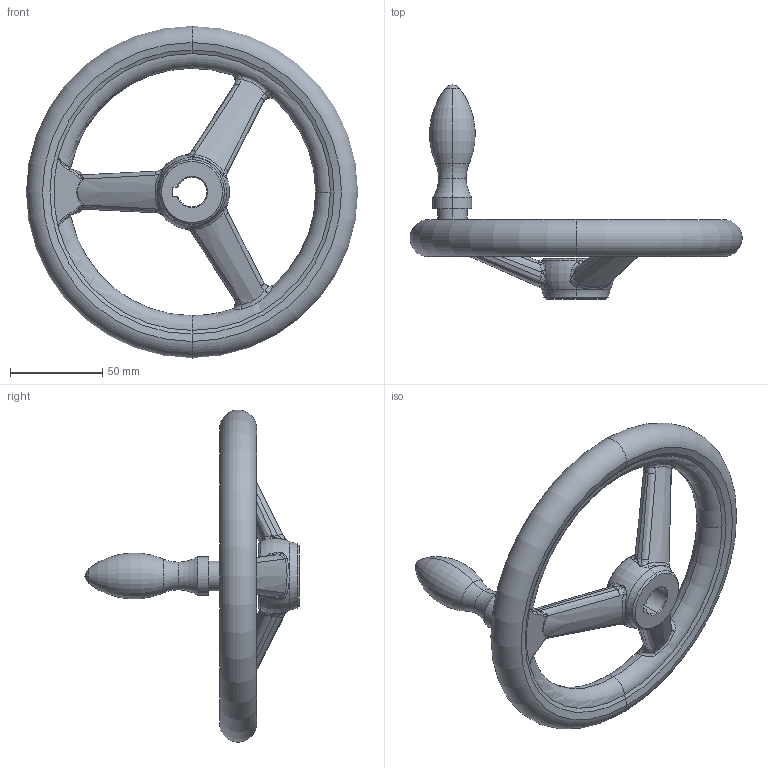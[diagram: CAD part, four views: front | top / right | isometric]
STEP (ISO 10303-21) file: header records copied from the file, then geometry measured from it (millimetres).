
FILE_DESCRIPTION (( 'STEP AP203' ), '1' );
FILE_NAME ('din950_d3_180x16.step', '2010-03-23T10:06:06', ( '_' ), ( '_' ), 'SwSTEP 2.0', 'SolidWorks 2010', '' );
FILE_SCHEMA (( 'CONFIG_CONTROL_DESIGN' ));
Length unit declared in the file: millimetre
Products named in the file (1): din950_d3_180x16
Bounding box: 179.93 x 116 x 179.93 mm (x, y, z)
Volume: 249592.3 mm3; surface area: 50681 mm2
Topology: 1 solids, 1 shells, 204 faces, 505 edges, 272 vertices
Faces by surface type: bspline 130, torus 27, cone 18, plane 15, cylinder 12, sphere 2
Entity records: 26790 total; most frequent: CARTESIAN_POINT 22836, ORIENTED_EDGE 958, DIRECTION 566, EDGE_CURVE 479, VERTEX_POINT 272, AXIS2_PLACEMENT_3D 265, B_SPLINE_CURVE_WITH_KNOTS 249, EDGE_LOOP 207
